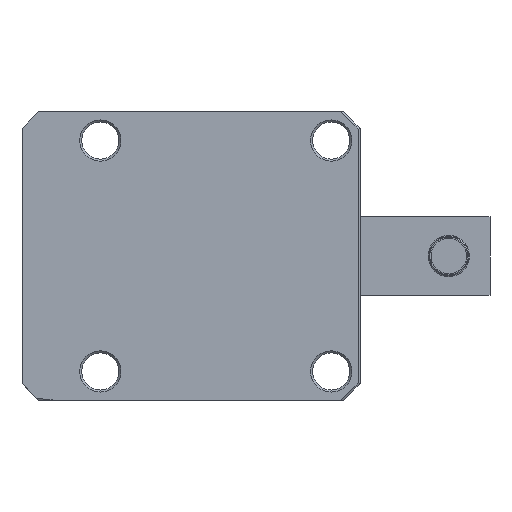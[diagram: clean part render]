
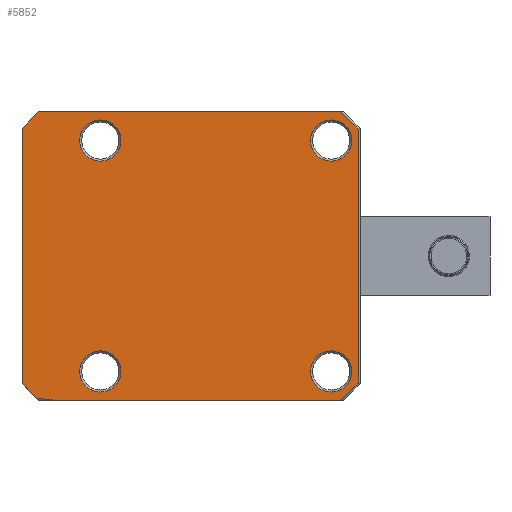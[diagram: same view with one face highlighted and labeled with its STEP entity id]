
A CAD part, front view. The second image highlights one B-rep face of the part: STEP entity #5852.
In plain terms, the highlighted planar face has unit normal (0, -1, 0).
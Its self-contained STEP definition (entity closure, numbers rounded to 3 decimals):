
#150=PLANE('',#6534);
#266=FACE_BOUND('',#823,.T.);
#267=FACE_BOUND('',#824,.T.);
#268=FACE_BOUND('',#825,.T.);
#269=FACE_BOUND('',#826,.T.);
#465=FACE_OUTER_BOUND('',#822,.T.);
#822=EDGE_LOOP('',(#4092,#4093,#4094,#4095,#4096,#4097,#4098,#4099,#4100,
#4101));
#823=EDGE_LOOP('',(#4102));
#824=EDGE_LOOP('',(#4103));
#825=EDGE_LOOP('',(#4104));
#826=EDGE_LOOP('',(#4105));
#1219=LINE('',#9592,#1667);
#1241=LINE('',#9639,#1689);
#1242=LINE('',#9641,#1690);
#1243=LINE('',#9643,#1691);
#1244=LINE('',#9644,#1692);
#1245=LINE('',#9646,#1693);
#1246=LINE('',#9648,#1694);
#1247=LINE('',#9650,#1695);
#1248=LINE('',#9653,#1696);
#1667=VECTOR('',#7399,1000.);
#1689=VECTOR('',#7435,1000.);
#1690=VECTOR('',#7436,1000.);
#1691=VECTOR('',#7437,1000.);
#1692=VECTOR('',#7438,1000.);
#1693=VECTOR('',#7439,1000.);
#1694=VECTOR('',#7440,1000.);
#1695=VECTOR('',#7441,1000.);
#1696=VECTOR('',#7444,1000.);
#2083=CIRCLE('',#6469,5.);
#2086=CIRCLE('',#6473,5.);
#2089=CIRCLE('',#6477,5.);
#2092=CIRCLE('',#6481,5.);
#2120=CIRCLE('',#6535,55.5);
#2477=VERTEX_POINT('',#9226);
#2480=VERTEX_POINT('',#9234);
#2483=VERTEX_POINT('',#9242);
#2486=VERTEX_POINT('',#9250);
#2535=VERTEX_POINT('',#9589);
#2536=VERTEX_POINT('',#9591);
#2553=VERTEX_POINT('',#9637);
#2554=VERTEX_POINT('',#9638);
#2555=VERTEX_POINT('',#9640);
#2556=VERTEX_POINT('',#9642);
#2557=VERTEX_POINT('',#9645);
#2558=VERTEX_POINT('',#9647);
#2559=VERTEX_POINT('',#9649);
#2560=VERTEX_POINT('',#9651);
#3047=EDGE_CURVE('',#2477,#2477,#2083,.T.);
#3051=EDGE_CURVE('',#2480,#2480,#2086,.T.);
#3055=EDGE_CURVE('',#2483,#2483,#2089,.T.);
#3059=EDGE_CURVE('',#2486,#2486,#2092,.T.);
#3127=EDGE_CURVE('',#2535,#2536,#1219,.T.);
#3150=EDGE_CURVE('',#2553,#2554,#1241,.T.);
#3151=EDGE_CURVE('',#2554,#2555,#1242,.T.);
#3152=EDGE_CURVE('',#2555,#2556,#1243,.T.);
#3153=EDGE_CURVE('',#2556,#2536,#1244,.T.);
#3154=EDGE_CURVE('',#2535,#2557,#1245,.T.);
#3155=EDGE_CURVE('',#2557,#2558,#1246,.T.);
#3156=EDGE_CURVE('',#2558,#2559,#1247,.T.);
#3157=EDGE_CURVE('',#2559,#2560,#2120,.T.);
#3158=EDGE_CURVE('',#2560,#2553,#1248,.T.);
#4092=ORIENTED_EDGE('',*,*,#3150,.T.);
#4093=ORIENTED_EDGE('',*,*,#3151,.T.);
#4094=ORIENTED_EDGE('',*,*,#3152,.T.);
#4095=ORIENTED_EDGE('',*,*,#3153,.T.);
#4096=ORIENTED_EDGE('',*,*,#3127,.F.);
#4097=ORIENTED_EDGE('',*,*,#3154,.T.);
#4098=ORIENTED_EDGE('',*,*,#3155,.T.);
#4099=ORIENTED_EDGE('',*,*,#3156,.T.);
#4100=ORIENTED_EDGE('',*,*,#3157,.T.);
#4101=ORIENTED_EDGE('',*,*,#3158,.T.);
#4102=ORIENTED_EDGE('',*,*,#3047,.T.);
#4103=ORIENTED_EDGE('',*,*,#3051,.T.);
#4104=ORIENTED_EDGE('',*,*,#3055,.T.);
#4105=ORIENTED_EDGE('',*,*,#3059,.T.);
#5852=ADVANCED_FACE('',(#465,#266,#267,#268,#269),#150,.T.);
#6469=AXIS2_PLACEMENT_3D('',#9228,#7247,#7248);
#6473=AXIS2_PLACEMENT_3D('',#9236,#7256,#7257);
#6477=AXIS2_PLACEMENT_3D('',#9244,#7265,#7266);
#6481=AXIS2_PLACEMENT_3D('',#9252,#7274,#7275);
#6534=AXIS2_PLACEMENT_3D('',#9636,#7433,#7434);
#6535=AXIS2_PLACEMENT_3D('',#9652,#7442,#7443);
#7247=DIRECTION('center_axis',(0.,1.,0.));
#7248=DIRECTION('ref_axis',(1.,0.,0.));
#7256=DIRECTION('center_axis',(0.,1.,0.));
#7257=DIRECTION('ref_axis',(0.,0.,-1.));
#7265=DIRECTION('center_axis',(0.,1.,0.));
#7266=DIRECTION('ref_axis',(0.,0.,-1.));
#7274=DIRECTION('center_axis',(0.,1.,0.));
#7275=DIRECTION('ref_axis',(0.,0.,-1.));
#7399=DIRECTION('',(1.,0.,0.));
#7433=DIRECTION('center_axis',(0.,-1.,0.));
#7434=DIRECTION('ref_axis',(0.,0.,-1.));
#7435=DIRECTION('',(1.,0.,0.));
#7436=DIRECTION('',(0.707,0.,0.707));
#7437=DIRECTION('',(0.,0.,1.));
#7438=DIRECTION('',(-0.707,0.,0.707));
#7439=DIRECTION('',(-0.707,0.,-0.707));
#7440=DIRECTION('',(0.,0.,-1.));
#7441=DIRECTION('',(0.707,0.,-0.707));
#7442=DIRECTION('center_axis',(0.,1.,0.));
#7443=DIRECTION('ref_axis',(0.,0.,-1.));
#7444=DIRECTION('',(0.994,0.,-0.11));
#9226=CARTESIAN_POINT('',(422.71,103.516,-28.));
#9228=CARTESIAN_POINT('Origin',(427.71,103.516,-28.));
#9234=CARTESIAN_POINT('',(483.71,103.516,-23.));
#9236=CARTESIAN_POINT('Origin',(483.71,103.516,-28.));
#9242=CARTESIAN_POINT('',(483.71,103.516,33.));
#9244=CARTESIAN_POINT('Origin',(483.71,103.516,28.));
#9250=CARTESIAN_POINT('',(427.71,103.516,33.));
#9252=CARTESIAN_POINT('Origin',(427.71,103.516,28.));
#9589=CARTESIAN_POINT('',(412.71,103.516,35.));
#9591=CARTESIAN_POINT('',(486.003,103.516,35.));
#9592=CARTESIAN_POINT('',(412.71,103.516,35.));
#9636=CARTESIAN_POINT('Origin',(408.71,103.516,35.));
#9637=CARTESIAN_POINT('',(416.752,103.516,-35.));
#9638=CARTESIAN_POINT('',(486.003,103.516,-35.));
#9639=CARTESIAN_POINT('',(408.71,103.516,-35.));
#9640=CARTESIAN_POINT('',(490.21,103.516,-30.793));
#9641=CARTESIAN_POINT('',(486.003,103.516,-35.));
#9642=CARTESIAN_POINT('',(490.21,103.516,30.793));
#9643=CARTESIAN_POINT('',(490.21,103.516,35.));
#9644=CARTESIAN_POINT('',(490.21,103.516,30.793));
#9645=CARTESIAN_POINT('',(408.71,103.516,31.));
#9646=CARTESIAN_POINT('',(412.71,103.516,35.));
#9647=CARTESIAN_POINT('',(408.71,103.516,-31.));
#9648=CARTESIAN_POINT('',(408.71,103.516,35.));
#9649=CARTESIAN_POINT('',(412.337,103.516,-34.627));
#9650=CARTESIAN_POINT('',(408.71,103.516,-31.));
#9651=CARTESIAN_POINT('',(412.236,103.516,-34.5));
#9652=CARTESIAN_POINT('Origin',(455.71,103.516,0.));
#9653=CARTESIAN_POINT('',(412.236,103.516,-34.5));
